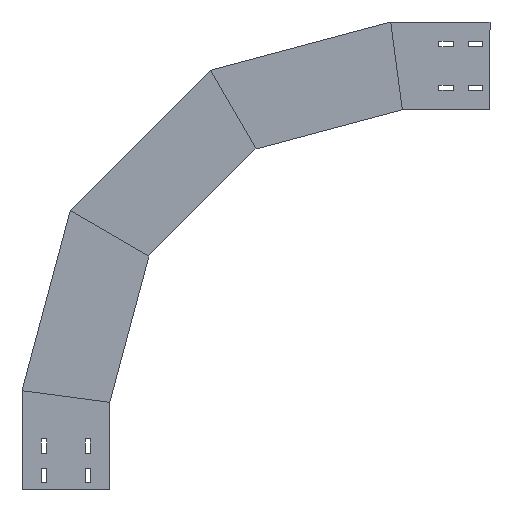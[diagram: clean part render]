
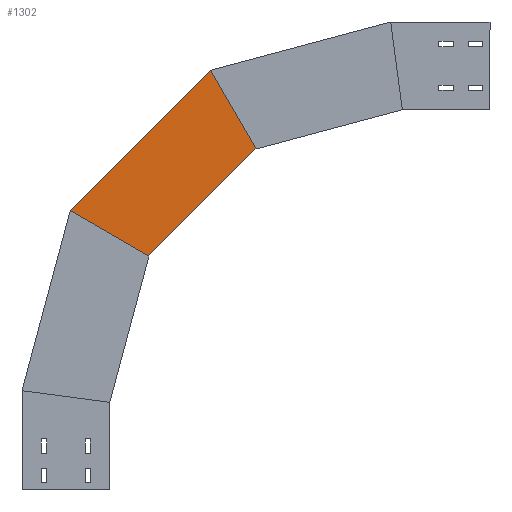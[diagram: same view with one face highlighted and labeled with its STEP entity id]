
A CAD part, left-side view. The second image highlights one B-rep face of the part: STEP entity #1302.
In plain terms, the highlighted planar face has unit normal (-1, 0, 0) as drawn and (1, 0, 0) by its records, which use the part's own axes.
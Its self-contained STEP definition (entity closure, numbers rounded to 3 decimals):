
#38 = ORIENTED_EDGE ( 'NONE', *, *, #1033, .T. ) ;
#75 = CARTESIAN_POINT ( 'NONE',  ( 0., 70.365, 474.908 ) ) ;
#76 = CARTESIAN_POINT ( 'NONE',  ( 0., -35.701, 368.842 ) ) ;
#178 = CARTESIAN_POINT ( 'NONE',  ( 0., -35.701, 368.842 ) ) ;
#181 = VERTEX_POINT ( 'NONE', #947 ) ;
#190 = FACE_OUTER_BOUND ( 'NONE', #1445, .T. ) ;
#211 = ORIENTED_EDGE ( 'NONE', *, *, #682, .F. ) ;
#255 = LINE ( 'NONE', #76, #1229 ) ;
#336 = DIRECTION ( 'NONE',  ( 0., -0.5, -0.866 ) ) ;
#366 = ORIENTED_EDGE ( 'NONE', *, *, #672, .F. ) ;
#451 = VERTEX_POINT ( 'NONE', #1117 ) ;
#483 = DIRECTION ( 'NONE',  ( 0., -0.866, -0.5 ) ) ;
#672 = EDGE_CURVE ( 'NONE', #451, #2423, #255, .T. ) ;
#677 = CARTESIAN_POINT ( 'NONE',  ( 0., -129.979, 363.834 ) ) ;
#682 = EDGE_CURVE ( 'NONE', #1893, #451, #1954, .T. ) ;
#820 = DIRECTION ( 'NONE',  ( 0., -0.707, 0.707 ) ) ;
#914 = CARTESIAN_POINT ( 'NONE',  ( 0., -289.426, 515.33 ) ) ;
#920 = DIRECTION ( 'NONE',  ( 1., 0., 0. ) ) ;
#947 = CARTESIAN_POINT ( 'NONE',  ( 0., -172.529, 717.802 ) ) ;
#991 = VECTOR ( 'NONE', #483, 1000. ) ;
#1033 = EDGE_CURVE ( 'NONE', #1893, #181, #1541, .T. ) ;
#1117 = CARTESIAN_POINT ( 'NONE',  ( 0., -67.034, 400.175 ) ) ;
#1229 = VECTOR ( 'NONE', #820, 1000. ) ;
#1269 = VECTOR ( 'NONE', #1929, 1000. ) ;
#1302 = ADVANCED_FACE ( 'NONE', ( #190 ), #1866, .T. ) ;
#1360 = ORIENTED_EDGE ( 'NONE', *, *, #2397, .T. ) ;
#1442 = CARTESIAN_POINT ( 'NONE',  ( 0., -250.175, 583.315 ) ) ;
#1445 = EDGE_LOOP ( 'NONE', ( #38, #1360, #366, #211 ) ) ;
#1541 = LINE ( 'NONE', #75, #1269 ) ;
#1625 = DIRECTION ( 'NONE',  ( 0., 0., -1. ) ) ;
#1765 = VECTOR ( 'NONE', #336, 1000. ) ;
#1804 = CARTESIAN_POINT ( 'NONE',  ( 0., 67.452, 477.821 ) ) ;
#1866 = PLANE ( 'NONE',  #2009 ) ;
#1893 = VERTEX_POINT ( 'NONE', #1804 ) ;
#1929 = DIRECTION ( 'NONE',  ( 0., -0.707, 0.707 ) ) ;
#1954 = LINE ( 'NONE', #677, #991 ) ;
#2009 = AXIS2_PLACEMENT_3D ( 'NONE', #178, #920, #1625 ) ;
#2011 = LINE ( 'NONE', #914, #1765 ) ;
#2397 = EDGE_CURVE ( 'NONE', #181, #2423, #2011, .T. ) ;
#2423 = VERTEX_POINT ( 'NONE', #1442 ) ;
